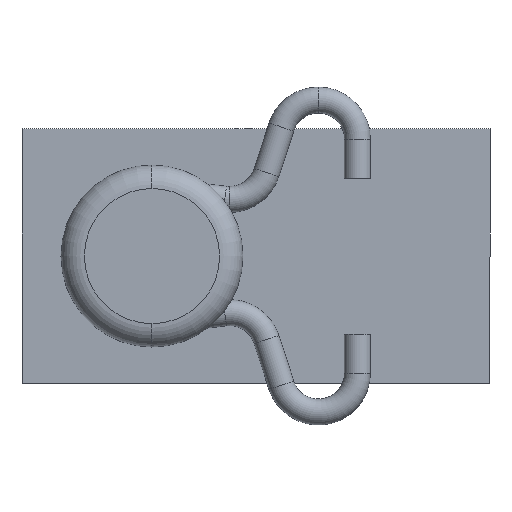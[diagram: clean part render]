
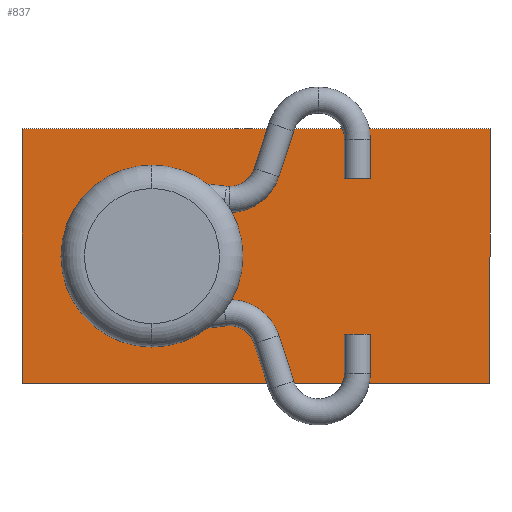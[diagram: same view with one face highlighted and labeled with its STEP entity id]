
A CAD part, front view. The second image highlights one B-rep face of the part: STEP entity #837.
In plain terms, the highlighted planar face has unit normal (0, -1, 0).
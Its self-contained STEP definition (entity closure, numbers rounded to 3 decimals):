
#71 = VECTOR ( 'NONE', #980, 1000. ) ;
#110 = CARTESIAN_POINT ( 'NONE',  ( 0., -0.5, 4.9 ) ) ;
#135 = EDGE_CURVE ( 'NONE', #971, #1549, #1571, .T. ) ;
#227 = VERTEX_POINT ( 'NONE', #328 ) ;
#283 = EDGE_LOOP ( 'NONE', ( #1257, #1443 ) ) ;
#328 = CARTESIAN_POINT ( 'NONE',  ( -18., -0.5, -4.9 ) ) ;
#340 = AXIS2_PLACEMENT_3D ( 'NONE', #808, #1641, #645 ) ;
#417 = ORIENTED_EDGE ( 'NONE', *, *, #440, .F. ) ;
#440 = EDGE_CURVE ( 'NONE', #461, #886, #1023, .T. ) ;
#452 = CIRCLE ( 'NONE', #1755, 1.95 ) ;
#461 = VERTEX_POINT ( 'NONE', #944 ) ;
#570 = DIRECTION ( 'NONE',  ( 0., 1., 0. ) ) ;
#609 = CARTESIAN_POINT ( 'NONE',  ( 0., -0.5, 0. ) ) ;
#645 = DIRECTION ( 'NONE',  ( 0., 0., 1. ) ) ;
#647 = VERTEX_POINT ( 'NONE', #2139 ) ;
#657 = ORIENTED_EDGE ( 'NONE', *, *, #1715, .F. ) ;
#741 = FACE_BOUND ( 'NONE', #283, .T. ) ;
#757 = LINE ( 'NONE', #1912, #1586 ) ;
#787 = AXIS2_PLACEMENT_3D ( 'NONE', #609, #570, #2081 ) ;
#797 = LINE ( 'NONE', #2190, #1534 ) ;
#808 = CARTESIAN_POINT ( 'NONE',  ( -13., -0.5, 0. ) ) ;
#837 = ADVANCED_FACE ( 'NONE', ( #741, #1578 ), #1952, .F. ) ;
#842 = CARTESIAN_POINT ( 'NONE',  ( 0., -0.5, 4.9 ) ) ;
#845 = DIRECTION ( 'NONE',  ( 1., 0., 0. ) ) ;
#886 = VERTEX_POINT ( 'NONE', #1569 ) ;
#944 = CARTESIAN_POINT ( 'NONE',  ( -18., -0.5, 4.9 ) ) ;
#971 = VERTEX_POINT ( 'NONE', #1100 ) ;
#972 = VECTOR ( 'NONE', #845, 1000. ) ;
#973 = LINE ( 'NONE', #842, #71 ) ;
#980 = DIRECTION ( 'NONE',  ( 0., 0., -1. ) ) ;
#1023 = LINE ( 'NONE', #110, #972 ) ;
#1064 = ORIENTED_EDGE ( 'NONE', *, *, #1233, .F. ) ;
#1100 = CARTESIAN_POINT ( 'NONE',  ( -13., -0.5, 1.95 ) ) ;
#1170 = EDGE_CURVE ( 'NONE', #1549, #971, #452, .T. ) ;
#1215 = ORIENTED_EDGE ( 'NONE', *, *, #1290, .F. ) ;
#1233 = EDGE_CURVE ( 'NONE', #227, #461, #797, .T. ) ;
#1257 = ORIENTED_EDGE ( 'NONE', *, *, #135, .T. ) ;
#1290 = EDGE_CURVE ( 'NONE', #886, #647, #973, .T. ) ;
#1443 = ORIENTED_EDGE ( 'NONE', *, *, #1170, .T. ) ;
#1531 = EDGE_LOOP ( 'NONE', ( #657, #1215, #417, #1064 ) ) ;
#1534 = VECTOR ( 'NONE', #2178, 1000. ) ;
#1549 = VERTEX_POINT ( 'NONE', #1560 ) ;
#1560 = CARTESIAN_POINT ( 'NONE',  ( -13., -0.5, -1.95 ) ) ;
#1569 = CARTESIAN_POINT ( 'NONE',  ( 0., -0.5, 4.9 ) ) ;
#1571 = CIRCLE ( 'NONE', #340, 1.95 ) ;
#1578 = FACE_OUTER_BOUND ( 'NONE', #1531, .T. ) ;
#1586 = VECTOR ( 'NONE', #2128, 1000. ) ;
#1641 = DIRECTION ( 'NONE',  ( 0., 1., 0. ) ) ;
#1663 = DIRECTION ( 'NONE',  ( 0., 0., 1. ) ) ;
#1715 = EDGE_CURVE ( 'NONE', #647, #227, #757, .T. ) ;
#1755 = AXIS2_PLACEMENT_3D ( 'NONE', #1818, #1804, #1663 ) ;
#1804 = DIRECTION ( 'NONE',  ( 0., 1., 0. ) ) ;
#1818 = CARTESIAN_POINT ( 'NONE',  ( -13., -0.5, 0. ) ) ;
#1912 = CARTESIAN_POINT ( 'NONE',  ( 0., -0.5, -4.9 ) ) ;
#1952 = PLANE ( 'NONE',  #787 ) ;
#2081 = DIRECTION ( 'NONE',  ( 0., 0., 1. ) ) ;
#2128 = DIRECTION ( 'NONE',  ( -1., 0., 0. ) ) ;
#2139 = CARTESIAN_POINT ( 'NONE',  ( 0., -0.5, -4.9 ) ) ;
#2178 = DIRECTION ( 'NONE',  ( 0., 0., 1. ) ) ;
#2190 = CARTESIAN_POINT ( 'NONE',  ( -18., -0.5, -4.9 ) ) ;
